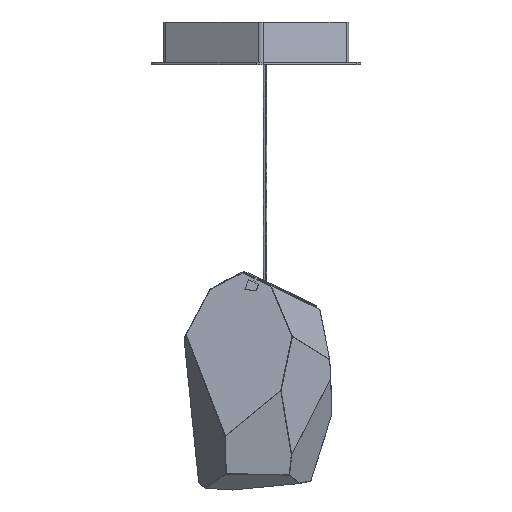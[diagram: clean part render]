
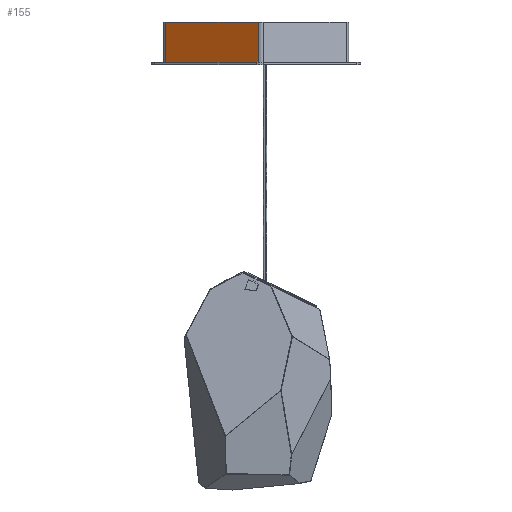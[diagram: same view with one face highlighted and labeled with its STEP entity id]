
A CAD part, front view. The second image highlights one B-rep face of the part: STEP entity #155.
In plain terms, the highlighted free-form (B-spline) face has degree [1, 1] with [2, 2] control points.
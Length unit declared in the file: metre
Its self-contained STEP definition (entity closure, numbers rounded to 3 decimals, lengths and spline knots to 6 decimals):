
#155=ADVANCED_FACE('',(#516),#11444,.T.);
#516=FACE_OUTER_BOUND('',#879,.T.);
#879=EDGE_LOOP('',(#1453,#1454,#1455,#1456));
#1453=ORIENTED_EDGE('',*,*,#9636,.F.);
#1454=ORIENTED_EDGE('',*,*,#9679,.T.);
#1455=ORIENTED_EDGE('',*,*,#9638,.F.);
#1456=ORIENTED_EDGE('',*,*,#9613,.F.);
#3090=PCURVE('',#11427,#4850);
#3124=PCURVE('',#11579,#4884);
#3130=PCURVE('',#11580,#4890);
#3213=PCURVE('',#11444,#4973);
#3214=PCURVE('',#11444,#4974);
#3215=PCURVE('',#11444,#4975);
#3216=PCURVE('',#11444,#4976);
#3227=PCURVE('',#11446,#4987);
#4850=DEFINITIONAL_REPRESENTATION('',(#6624),#25627);
#4884=DEFINITIONAL_REPRESENTATION('',(#6671),#25627);
#4890=DEFINITIONAL_REPRESENTATION('',(#6679),#25627);
#4973=DEFINITIONAL_REPRESENTATION('',(#6793),#25627);
#4974=DEFINITIONAL_REPRESENTATION('',(#6795),#25627);
#4975=DEFINITIONAL_REPRESENTATION('',(#6796),#25627);
#4976=DEFINITIONAL_REPRESENTATION('',(#6797),#25627);
#4987=DEFINITIONAL_REPRESENTATION('',(#6806),#25627);
#6623=B_SPLINE_CURVE_WITH_KNOTS('',1,(#12960,#12961),.UNSPECIFIED.,.F.,
 .F.,(2,2),(0.,94.459705),.UNSPECIFIED.);
#6624=B_SPLINE_CURVE_WITH_KNOTS('',1,(#12962,#12963),.UNSPECIFIED.,.F.,
 .F.,(2,2),(0.,94.459705),.UNSPECIFIED.);
#6670=B_SPLINE_CURVE_WITH_KNOTS('',1,(#13084,#13085),.UNSPECIFIED.,.F.,
 .F.,(2,2),(0.,34.),.UNSPECIFIED.);
#6671=B_SPLINE_CURVE_WITH_KNOTS('',1,(#13086,#13087),.UNSPECIFIED.,.F.,
 .F.,(2,2),(0.,34.),.UNSPECIFIED.);
#6678=B_SPLINE_CURVE_WITH_KNOTS('',1,(#13100,#13101),.UNSPECIFIED.,.F.,
 .F.,(2,2),(0.,34.),.UNSPECIFIED.);
#6679=B_SPLINE_CURVE_WITH_KNOTS('',1,(#13102,#13103),.UNSPECIFIED.,.F.,
 .F.,(2,2),(0.,34.),.UNSPECIFIED.);
#6793=B_SPLINE_CURVE_WITH_KNOTS('',1,(#13357,#13358),.UNSPECIFIED.,.F.,
 .F.,(2,2),(0.,34.),.UNSPECIFIED.);
#6794=B_SPLINE_CURVE_WITH_KNOTS('',1,(#13359,#13360),.UNSPECIFIED.,.F.,
 .F.,(2,2),(-94.459705,0.),.UNSPECIFIED.);
#6795=B_SPLINE_CURVE_WITH_KNOTS('',1,(#13361,#13362),.UNSPECIFIED.,.F.,
 .F.,(2,2),(-94.459705,0.),.UNSPECIFIED.);
#6796=B_SPLINE_CURVE_WITH_KNOTS('',1,(#13363,#13364),.UNSPECIFIED.,.F.,
 .F.,(2,2),(0.,34.),.UNSPECIFIED.);
#6797=B_SPLINE_CURVE_WITH_KNOTS('',1,(#13365,#13366),.UNSPECIFIED.,.F.,
 .F.,(2,2),(0.,94.459705),.UNSPECIFIED.);
#6806=B_SPLINE_CURVE_WITH_KNOTS('',1,(#13392,#13393),.UNSPECIFIED.,.F.,
 .F.,(2,2),(-94.459705,0.),.UNSPECIFIED.);
#8731=SURFACE_CURVE('',#6623,(#3090,#3216),.PCURVE_S1.);
#8754=SURFACE_CURVE('',#6670,(#3124,#3213),.PCURVE_S1.);
#8756=SURFACE_CURVE('',#6678,(#3130,#3215),.PCURVE_S1.);
#8797=SURFACE_CURVE('',#6794,(#3214,#3227),.PCURVE_S1.);
#9613=EDGE_CURVE('',#10946,#10947,#8731,.T.);
#9636=EDGE_CURVE('',#10962,#10946,#8754,.T.);
#9638=EDGE_CURVE('',#10947,#10963,#8756,.T.);
#9679=EDGE_CURVE('',#10962,#10963,#8797,.T.);
#10946=VERTEX_POINT('',#12786);
#10947=VERTEX_POINT('',#12787);
#10962=VERTEX_POINT('',#12802);
#10963=VERTEX_POINT('',#12803);
#11427=B_SPLINE_SURFACE_WITH_KNOTS('',1,1,((#12445,#12446),(#12447,#12448)),
 .UNSPECIFIED.,.F.,.F.,.F.,(2,2),(2,2),(-133.845519,148.00618),
(-144.896973,130.062106),.UNSPECIFIED.);
#11444=B_SPLINE_SURFACE_WITH_KNOTS('',1,1,((#12747,#12748),(#12749,#12750)),
 .UNSPECIFIED.,.F.,.F.,.F.,(2,2),(2,2),(-7.37728,106.307638),
(-3.52,37.52),.UNSPECIFIED.);
#11446=B_SPLINE_SURFACE_WITH_KNOTS('',1,1,((#12755,#12756),(#12757,#12758)),
 .UNSPECIFIED.,.F.,.F.,.F.,(2,2),(2,2),(-144.896973,130.062106),
(-133.845519,148.00618),.UNSPECIFIED.);
#11579=(
BOUNDED_SURFACE()
B_SPLINE_SURFACE(2,1,((#12515,#12516),(#12517,#12518),(#12519,#12520),(#12521,
#12522),(#12523,#12524),(#12525,#12526),(#12527,#12528),(#12529,#12530),
(#12531,#12532)),.UNSPECIFIED.,.T.,.F.,.F.)
B_SPLINE_SURFACE_WITH_KNOTS((3,2,2,2,3),(2,2),(0.,1.570796,3.141593,
4.712389,6.283185),(0.,41.04),.UNSPECIFIED.)
GEOMETRIC_REPRESENTATION_ITEM()
RATIONAL_B_SPLINE_SURFACE(((1.,1.),(0.707,0.707),
(1.,1.),(0.707,0.707),(1.,1.),(0.707,
0.707),(1.,1.),(0.707,0.707),(1.,1.)))
REPRESENTATION_ITEM('')
SURFACE()
);
#11580=(
BOUNDED_SURFACE()
B_SPLINE_SURFACE(2,1,((#12537,#12538),(#12539,#12540),(#12541,#12542),(#12543,
#12544),(#12545,#12546),(#12547,#12548),(#12549,#12550),(#12551,#12552),
(#12553,#12554)),.UNSPECIFIED.,.T.,.F.,.F.)
B_SPLINE_SURFACE_WITH_KNOTS((3,2,2,2,3),(2,2),(0.,1.570796,3.141593,
4.712389,6.283185),(0.,41.04),.UNSPECIFIED.)
GEOMETRIC_REPRESENTATION_ITEM()
RATIONAL_B_SPLINE_SURFACE(((1.,1.),(0.707,0.707),
(1.,1.),(0.707,0.707),(1.,1.),(0.707,
0.707),(1.,1.),(0.707,0.707),(1.,1.)))
REPRESENTATION_ITEM('')
SURFACE()
);
#12445=CARTESIAN_POINT('',(-42.198997,203.110593,39.912005));
#12446=CARTESIAN_POINT('',(185.52275,49.01549,39.912005));
#12447=CARTESIAN_POINT('',(-200.156926,-30.319639,39.912005));
#12448=CARTESIAN_POINT('',(27.564822,-184.414741,39.912005));
#12515=CARTESIAN_POINT('',(-81.298554,-17.891661,2.392005));
#12516=CARTESIAN_POINT('',(-81.298554,-17.891661,43.432005));
#12517=CARTESIAN_POINT('',(-85.298554,-17.891661,2.392005));
#12518=CARTESIAN_POINT('',(-85.298554,-17.891661,43.432005));
#12519=CARTESIAN_POINT('',(-85.298554,-21.891661,2.392005));
#12520=CARTESIAN_POINT('',(-85.298554,-21.891661,43.432005));
#12521=CARTESIAN_POINT('',(-85.298554,-25.891661,2.392005));
#12522=CARTESIAN_POINT('',(-85.298554,-25.891661,43.432005));
#12523=CARTESIAN_POINT('',(-81.298554,-25.891661,2.392005));
#12524=CARTESIAN_POINT('',(-81.298554,-25.891661,43.432005));
#12525=CARTESIAN_POINT('',(-77.298554,-25.891661,2.392005));
#12526=CARTESIAN_POINT('',(-77.298554,-25.891661,43.432005));
#12527=CARTESIAN_POINT('',(-77.298554,-21.891661,2.392005));
#12528=CARTESIAN_POINT('',(-77.298554,-21.891661,43.432005));
#12529=CARTESIAN_POINT('',(-77.298554,-17.891661,2.392005));
#12530=CARTESIAN_POINT('',(-77.298554,-17.891661,43.432005));
#12531=CARTESIAN_POINT('',(-81.298554,-17.891661,2.392005));
#12532=CARTESIAN_POINT('',(-81.298554,-17.891661,43.432005));
#12537=CARTESIAN_POINT('',(-3.066807,-70.829641,2.392005));
#12538=CARTESIAN_POINT('',(-3.066807,-70.829641,43.432005));
#12539=CARTESIAN_POINT('',(-7.066807,-70.829641,2.392005));
#12540=CARTESIAN_POINT('',(-7.066807,-70.829641,43.432005));
#12541=CARTESIAN_POINT('',(-7.066807,-74.829641,2.392005));
#12542=CARTESIAN_POINT('',(-7.066807,-74.829641,43.432005));
#12543=CARTESIAN_POINT('',(-7.066807,-78.829641,2.392005));
#12544=CARTESIAN_POINT('',(-7.066807,-78.829641,43.432005));
#12545=CARTESIAN_POINT('',(-3.066807,-78.829641,2.392005));
#12546=CARTESIAN_POINT('',(-3.066807,-78.829641,43.432005));
#12547=CARTESIAN_POINT('',(0.933193,-78.829641,2.392005));
#12548=CARTESIAN_POINT('',(0.933193,-78.829641,43.432005));
#12549=CARTESIAN_POINT('',(0.933193,-74.829641,2.392005));
#12550=CARTESIAN_POINT('',(0.933193,-74.829641,43.432005));
#12551=CARTESIAN_POINT('',(0.933193,-70.829641,2.392005));
#12552=CARTESIAN_POINT('',(0.933193,-70.829641,43.432005));
#12553=CARTESIAN_POINT('',(-3.066807,-70.829641,2.392005));
#12554=CARTESIAN_POINT('',(-3.066807,-70.829641,43.432005));
#12747=CARTESIAN_POINT('',(-91.501454,-19.817285,2.392005));
#12748=CARTESIAN_POINT('',(-91.501454,-19.817285,43.432005));
#12749=CARTESIAN_POINT('',(2.652659,-83.529635,2.392005));
#12750=CARTESIAN_POINT('',(2.652659,-83.529635,43.432005));
#12755=CARTESIAN_POINT('',(-42.198997,203.110593,5.912005));
#12756=CARTESIAN_POINT('',(-200.156926,-30.319639,5.912005));
#12757=CARTESIAN_POINT('',(185.52275,49.01549,5.912005));
#12758=CARTESIAN_POINT('',(27.564822,-184.414741,5.912005));
#12786=CARTESIAN_POINT('',(-83.540271,-25.204471,39.912005));
#12787=CARTESIAN_POINT('',(-5.308524,-78.14245,39.912005));
#12802=CARTESIAN_POINT('',(-83.540271,-25.204471,5.912005));
#12803=CARTESIAN_POINT('',(-5.308524,-78.14245,5.912005));
#12960=CARTESIAN_POINT('',(-83.540271,-25.204471,39.912005));
#12961=CARTESIAN_POINT('',(-5.308524,-78.14245,39.912005));
#12962=CARTESIAN_POINT('',(78.414,-51.181));
#12963=CARTESIAN_POINT('',(78.414,43.278));
#13084=CARTESIAN_POINT('',(-83.540271,-25.204471,5.912005));
#13085=CARTESIAN_POINT('',(-83.540271,-25.204471,39.912005));
#13086=CARTESIAN_POINT('',(2.537,3.52));
#13087=CARTESIAN_POINT('',(2.537,37.52));
#13100=CARTESIAN_POINT('',(-5.308524,-78.14245,39.912005));
#13101=CARTESIAN_POINT('',(-5.308524,-78.14245,5.912005));
#13102=CARTESIAN_POINT('',(2.537,37.52));
#13103=CARTESIAN_POINT('',(2.537,3.52));
#13357=CARTESIAN_POINT('',(2.235,0.));
#13358=CARTESIAN_POINT('',(2.235,34.));
#13359=CARTESIAN_POINT('',(-83.540271,-25.204471,5.912005));
#13360=CARTESIAN_POINT('',(-5.308524,-78.14245,5.912005));
#13361=CARTESIAN_POINT('',(2.235,0.));
#13362=CARTESIAN_POINT('',(96.695,0.));
#13363=CARTESIAN_POINT('',(96.695,34.));
#13364=CARTESIAN_POINT('',(96.695,0.));
#13365=CARTESIAN_POINT('',(2.235,34.));
#13366=CARTESIAN_POINT('',(96.695,34.));
#13392=CARTESIAN_POINT('',(-51.181,78.414));
#13393=CARTESIAN_POINT('',(43.278,78.414));
#25627=(
GEOMETRIC_REPRESENTATION_CONTEXT(2)
PARAMETRIC_REPRESENTATION_CONTEXT()
REPRESENTATION_CONTEXT('pspace','')
);
